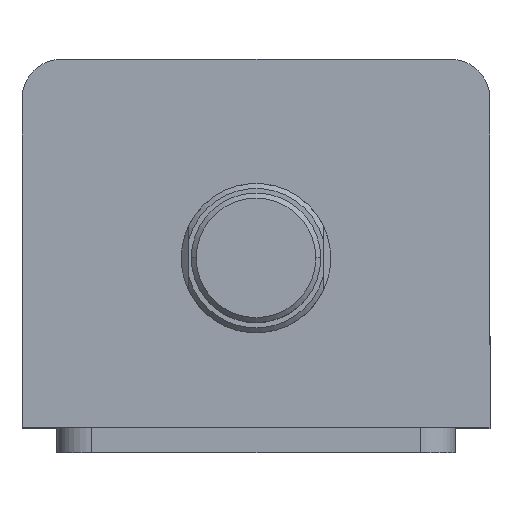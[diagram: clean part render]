
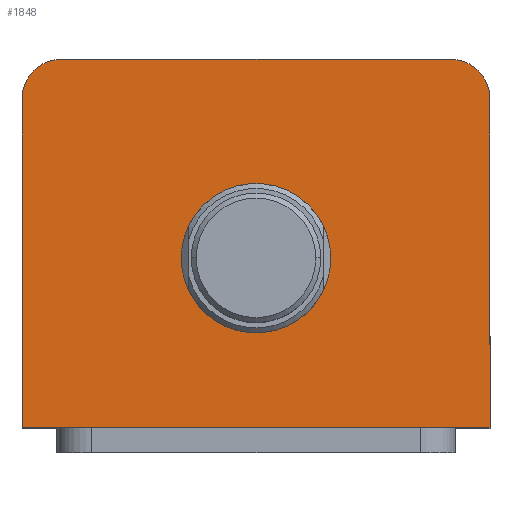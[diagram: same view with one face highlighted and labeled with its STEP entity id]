
A CAD part, top view. The second image highlights one B-rep face of the part: STEP entity #1848.
In plain terms, the highlighted planar face has unit normal (0, 0, 1).
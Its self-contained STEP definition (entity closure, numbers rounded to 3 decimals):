
#89 = LINE ( 'NONE', #2099, #92 ) ;
#92 = VECTOR ( 'NONE', #2089, 1000. ) ;
#199 = FACE_BOUND ( 'NONE', #2843, .T. ) ;
#206 = FACE_OUTER_BOUND ( 'NONE', #2660, .T. ) ;
#630 = PLANE ( 'NONE',  #1453 ) ;
#633 = CARTESIAN_POINT ( 'NONE',  ( 0., 0., 115. ) ) ;
#639 = DIRECTION ( 'NONE',  ( 0., 0., 1. ) ) ;
#640 = DIRECTION ( 'NONE',  ( 1., 0., 0. ) ) ;
#778 = CARTESIAN_POINT ( 'NONE',  ( -15., -3., 115. ) ) ;
#838 = CARTESIAN_POINT ( 'NONE',  ( -47., -37., 115. ) ) ;
#845 = CARTESIAN_POINT ( 'NONE',  ( 47., -37., 115. ) ) ;
#846 = CARTESIAN_POINT ( 'NONE',  ( 15., -3., 115. ) ) ;
#870 = CARTESIAN_POINT ( 'NONE',  ( 47., 29., 115. ) ) ;
#900 = CARTESIAN_POINT ( 'NONE',  ( -39., 37., 115. ) ) ;
#901 = CARTESIAN_POINT ( 'NONE',  ( 39., 37., 115. ) ) ;
#903 = CARTESIAN_POINT ( 'NONE',  ( -47., 29., 115. ) ) ;
#1041 = CARTESIAN_POINT ( 'NONE',  ( 47., 37., 115. ) ) ;
#1044 = DIRECTION ( 'NONE',  ( 0., 1., 0. ) ) ;
#1095 = DIRECTION ( 'NONE',  ( 1., 0., 0. ) ) ;
#1103 = CARTESIAN_POINT ( 'NONE',  ( -47., -37., 115. ) ) ;
#1135 = CARTESIAN_POINT ( 'NONE',  ( 0., -3., 115. ) ) ;
#1148 = CARTESIAN_POINT ( 'NONE',  ( 39., 29., 115. ) ) ;
#1149 = DIRECTION ( 'NONE',  ( 0., 0., 1. ) ) ;
#1150 = DIRECTION ( 'NONE',  ( 1., 0., 0. ) ) ;
#1161 = DIRECTION ( 'NONE',  ( 0., 0., 1. ) ) ;
#1162 = DIRECTION ( 'NONE',  ( 1., 0., 0. ) ) ;
#1192 = CARTESIAN_POINT ( 'NONE',  ( -39., 29., 115. ) ) ;
#1193 = DIRECTION ( 'NONE',  ( 0., 0., 1. ) ) ;
#1195 = DIRECTION ( 'NONE',  ( 1., 0., 0. ) ) ;
#1200 = CARTESIAN_POINT ( 'NONE',  ( -47., 37., 115. ) ) ;
#1202 = DIRECTION ( 'NONE',  ( 0., -1., 0. ) ) ;
#1297 = EDGE_CURVE ( 'NONE', #2736, #2777, #1905, .T. ) ;
#1331 = AXIS2_PLACEMENT_3D ( 'NONE', #1148, #1149, #1150 ) ;
#1339 = AXIS2_PLACEMENT_3D ( 'NONE', #1192, #1193, #1195 ) ;
#1344 = AXIS2_PLACEMENT_3D ( 'NONE', #1135, #1161, #1162 ) ;
#1366 = AXIS2_PLACEMENT_3D ( 'NONE', #2457, #2444, #2454 ) ;
#1453 = AXIS2_PLACEMENT_3D ( 'NONE', #633, #639, #640 ) ;
#1491 = EDGE_CURVE ( 'NONE', #2777, #2858, #2386, .T. ) ;
#1501 = EDGE_CURVE ( 'NONE', #2857, #2873, #2372, .T. ) ;
#1507 = EDGE_CURVE ( 'NONE', #2721, #2736, #2364, .T. ) ;
#1515 = EDGE_CURVE ( 'NONE', #2873, #2721, #2348, .T. ) ;
#1524 = EDGE_CURVE ( 'NONE', #2746, #2213, #2188, .T. ) ;
#1570 = EDGE_CURVE ( 'NONE', #2213, #2746, #1744, .T. ) ;
#1744 = CIRCLE ( 'NONE', #1366, 15. ) ;
#1765 = EDGE_CURVE ( 'NONE', #2858, #2857, #89, .T. ) ;
#1848 = ADVANCED_FACE ( 'NONE', ( #199, #206 ), #630, .T. ) ;
#1905 = LINE ( 'NONE', #1041, #1914 ) ;
#1914 = VECTOR ( 'NONE', #1044, 1000. ) ;
#2036 = ORIENTED_EDGE ( 'NONE', *, *, #1491, .T. ) ;
#2037 = ORIENTED_EDGE ( 'NONE', *, *, #1297, .T. ) ;
#2038 = ORIENTED_EDGE ( 'NONE', *, *, #1507, .T. ) ;
#2039 = ORIENTED_EDGE ( 'NONE', *, *, #1515, .T. ) ;
#2040 = ORIENTED_EDGE ( 'NONE', *, *, #1501, .T. ) ;
#2041 = ORIENTED_EDGE ( 'NONE', *, *, #1765, .T. ) ;
#2042 = ORIENTED_EDGE ( 'NONE', *, *, #1570, .F. ) ;
#2043 = ORIENTED_EDGE ( 'NONE', *, *, #1524, .F. ) ;
#2089 = DIRECTION ( 'NONE',  ( -1., 0., 0. ) ) ;
#2099 = CARTESIAN_POINT ( 'NONE',  ( -47., 37., 115. ) ) ;
#2188 = CIRCLE ( 'NONE', #1344, 15. ) ;
#2213 = VERTEX_POINT ( 'NONE', #778 ) ;
#2345 = VECTOR ( 'NONE', #1202, 1000. ) ;
#2348 = LINE ( 'NONE', #1200, #2345 ) ;
#2361 = VECTOR ( 'NONE', #1095, 1000. ) ;
#2364 = LINE ( 'NONE', #1103, #2361 ) ;
#2372 = CIRCLE ( 'NONE', #1339, 8. ) ;
#2386 = CIRCLE ( 'NONE', #1331, 8. ) ;
#2444 = DIRECTION ( 'NONE',  ( 0., 0., 1. ) ) ;
#2454 = DIRECTION ( 'NONE',  ( 1., 0., 0. ) ) ;
#2457 = CARTESIAN_POINT ( 'NONE',  ( 0., -3., 115. ) ) ;
#2660 = EDGE_LOOP ( 'NONE', ( #2041, #2040, #2039, #2038, #2037, #2036 ) ) ;
#2721 = VERTEX_POINT ( 'NONE', #838 ) ;
#2736 = VERTEX_POINT ( 'NONE', #845 ) ;
#2746 = VERTEX_POINT ( 'NONE', #846 ) ;
#2777 = VERTEX_POINT ( 'NONE', #870 ) ;
#2843 = EDGE_LOOP ( 'NONE', ( #2043, #2042 ) ) ;
#2857 = VERTEX_POINT ( 'NONE', #900 ) ;
#2858 = VERTEX_POINT ( 'NONE', #901 ) ;
#2873 = VERTEX_POINT ( 'NONE', #903 ) ;
